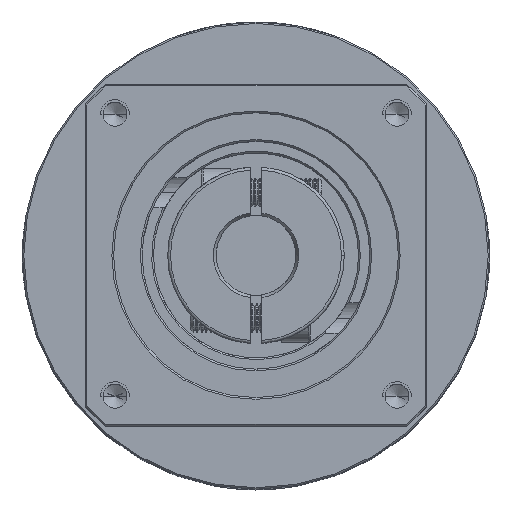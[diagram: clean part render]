
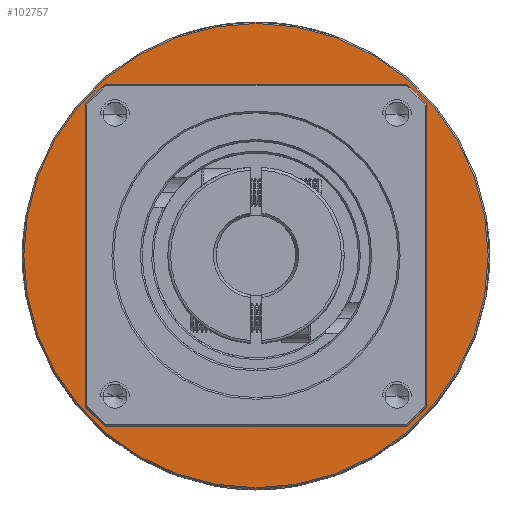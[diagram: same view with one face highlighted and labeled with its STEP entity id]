
A CAD part, top view. The second image highlights one B-rep face of the part: STEP entity #102757.
In plain terms, the highlighted planar face has unit normal (0, 0, 1).
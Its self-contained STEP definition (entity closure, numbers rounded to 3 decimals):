
#9 = CARTESIAN_POINT ( 'NONE',  ( -15.452, 2.245, 34. ) ) ;
#723 = ORIENTED_EDGE ( 'NONE', *, *, #53500, .F. ) ;
#5196 = DIRECTION ( 'NONE',  ( -1., 0., 0. ) ) ;
#5321 = AXIS2_PLACEMENT_3D ( 'NONE', #98770, #38224, #109006 ) ;
#10790 = FACE_OUTER_BOUND ( 'NONE', #79602, .T. ) ;
#14500 = AXIS2_PLACEMENT_3D ( 'NONE', #101458, #40927, #111681 ) ;
#19037 = CARTESIAN_POINT ( 'NONE',  ( 14.548, 2.245, 34. ) ) ;
#24784 = CIRCLE ( 'NONE', #60444, 40.75 ) ;
#29179 = DIRECTION ( 'NONE',  ( -1., 0., 0. ) ) ;
#35522 = CARTESIAN_POINT ( 'NONE',  ( 14.548, 2.245, 34. ) ) ;
#38224 = DIRECTION ( 'NONE',  ( 0., 0., 1. ) ) ;
#40927 = DIRECTION ( 'NONE',  ( 0., 0., -1. ) ) ;
#43974 = CIRCLE ( 'NONE', #14500, 40.75 ) ;
#44651 = ORIENTED_EDGE ( 'NONE', *, *, #118715, .T. ) ;
#44799 = VERTEX_POINT ( 'NONE', #112121 ) ;
#45725 = DIRECTION ( 'NONE',  ( -1., 0., 0. ) ) ;
#50014 = CARTESIAN_POINT ( 'NONE',  ( -26.202, 2.245, 34. ) ) ;
#53500 = EDGE_CURVE ( 'NONE', #119634, #44799, #24784, .T. ) ;
#58182 = PLANE ( 'NONE',  #5321 ) ;
#60444 = AXIS2_PLACEMENT_3D ( 'NONE', #19037, #89629, #29179 ) ;
#64322 = CARTESIAN_POINT ( 'NONE',  ( 44.548, 2.245, 34. ) ) ;
#65554 = AXIS2_PLACEMENT_3D ( 'NONE', #35522, #106301, #45725 ) ;
#65672 = DIRECTION ( 'NONE',  ( 0., 0., -1. ) ) ;
#77329 = ORIENTED_EDGE ( 'NONE', *, *, #121142, .T. ) ;
#79602 = EDGE_LOOP ( 'NONE', ( #723, #96041 ) ) ;
#85006 = FACE_BOUND ( 'NONE', #96691, .T. ) ;
#85173 = CIRCLE ( 'NONE', #65554, 30. ) ;
#89629 = DIRECTION ( 'NONE',  ( 0., 0., -1. ) ) ;
#95299 = VERTEX_POINT ( 'NONE', #64322 ) ;
#95744 = AXIS2_PLACEMENT_3D ( 'NONE', #126161, #65672, #5196 ) ;
#96041 = ORIENTED_EDGE ( 'NONE', *, *, #130943, .F. ) ;
#96691 = EDGE_LOOP ( 'NONE', ( #44651, #77329 ) ) ;
#98138 = VERTEX_POINT ( 'NONE', #9 ) ;
#98770 = CARTESIAN_POINT ( 'NONE',  ( 14.548, 2.245, 34. ) ) ;
#100456 = CIRCLE ( 'NONE', #95744, 30. ) ;
#101458 = CARTESIAN_POINT ( 'NONE',  ( 14.548, 2.245, 34. ) ) ;
#102757 = ADVANCED_FACE ( 'NONE', ( #10790, #85006 ), #58182, .T. ) ;
#106301 = DIRECTION ( 'NONE',  ( 0., 0., -1. ) ) ;
#109006 = DIRECTION ( 'NONE',  ( 1., 0., 0. ) ) ;
#111681 = DIRECTION ( 'NONE',  ( -1., 0., 0. ) ) ;
#112121 = CARTESIAN_POINT ( 'NONE',  ( 55.298, 2.245, 34. ) ) ;
#118715 = EDGE_CURVE ( 'NONE', #98138, #95299, #100456, .T. ) ;
#119634 = VERTEX_POINT ( 'NONE', #50014 ) ;
#121142 = EDGE_CURVE ( 'NONE', #95299, #98138, #85173, .T. ) ;
#126161 = CARTESIAN_POINT ( 'NONE',  ( 14.548, 2.245, 34. ) ) ;
#130943 = EDGE_CURVE ( 'NONE', #44799, #119634, #43974, .T. ) ;
